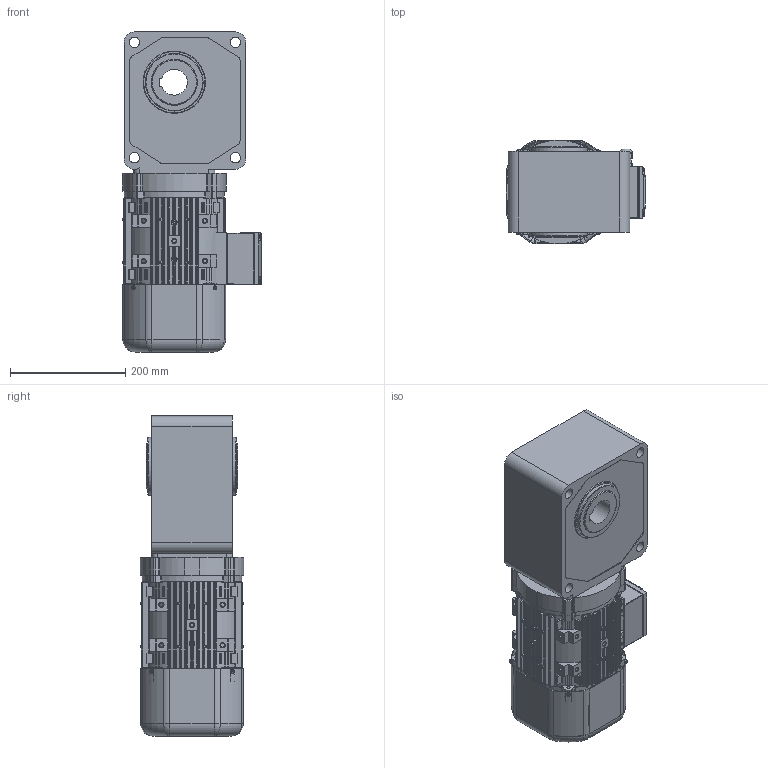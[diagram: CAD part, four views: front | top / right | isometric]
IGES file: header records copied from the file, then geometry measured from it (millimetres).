
Global section: file name: No Iges File Name specified; native system: Autodesk Inventor 2012; preprocessor: AutoDesk Inventor Iges Exporter R2012; author: jingon; date: 20130416.104746; units: millimetre
Bounding box: 241.5 x 180 x 554.5 mm (x, y, z)
Volume: 9158230.1 mm3; surface area: 937438.2 mm2
Topology: 23 solids, 23 shells, 1757 faces, 4674 edges, 3078 vertices
Faces by surface type: plane 829, revolution 475, cylinder 374, torus 31, cone 29, bspline 11, sphere 8
Full cylindrical faces by diameter (mm): 4 x8, 6 x4, 7 x8, 9.5 x4, 10 x4, 13.4 x1, 18.4 x1, 18.6 x1, 22.2 x1, 100 x2, 166.5 x2, 168 x2
